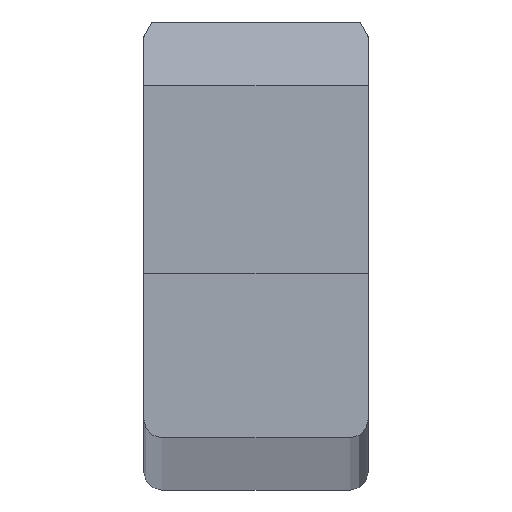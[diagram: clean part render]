
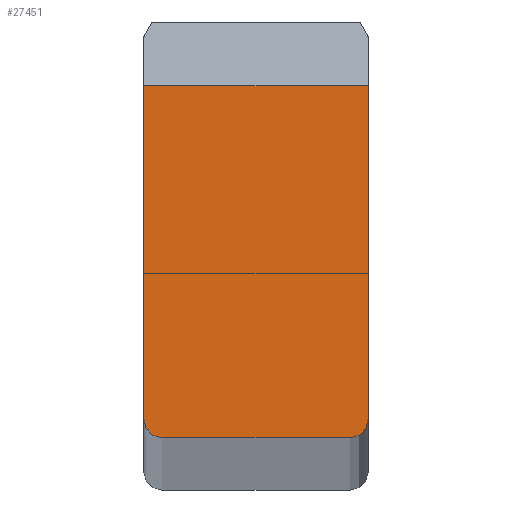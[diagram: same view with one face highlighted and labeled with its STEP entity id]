
A CAD part, top view. The second image highlights one B-rep face of the part: STEP entity #27451.
In plain terms, the highlighted planar face has unit normal (0, 0, 1).
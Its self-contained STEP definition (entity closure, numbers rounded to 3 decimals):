
#381 = CARTESIAN_POINT ( 'NONE',  ( 0., 0., 2000. ) ) ;
#3245 = PLANE ( 'NONE',  #54795 ) ;
#8101 = CIRCLE ( 'NONE', #16896, 1.2 ) ;
#8110 = DIRECTION ( 'NONE',  ( -1., 0., 0. ) ) ;
#9843 = FACE_OUTER_BOUND ( 'NONE', #52493, .T. ) ;
#9879 = LINE ( 'NONE', #54117, #34209 ) ;
#11180 = EDGE_CURVE ( 'NONE', #18953, #12030, #24541, .T. ) ;
#12030 = VERTEX_POINT ( 'NONE', #56476 ) ;
#12287 = VERTEX_POINT ( 'NONE', #25791 ) ;
#14030 = CARTESIAN_POINT ( 'NONE',  ( 15., 0., 2000. ) ) ;
#14288 = DIRECTION ( 'NONE',  ( -1., 0., 0. ) ) ;
#15863 = ORIENTED_EDGE ( 'NONE', *, *, #34990, .T. ) ;
#16036 = DIRECTION ( 'NONE',  ( 0., 0., 1. ) ) ;
#16896 = AXIS2_PLACEMENT_3D ( 'NONE', #45175, #16036, #50119 ) ;
#18953 = VERTEX_POINT ( 'NONE', #60568 ) ;
#23093 = ORIENTED_EDGE ( 'NONE', *, *, #61597, .T. ) ;
#23794 = DIRECTION ( 'NONE',  ( 0., 1., 0. ) ) ;
#24133 = ORIENTED_EDGE ( 'NONE', *, *, #11180, .T. ) ;
#24541 = LINE ( 'NONE', #14030, #48983 ) ;
#24588 = DIRECTION ( 'NONE',  ( 0., -1., 0. ) ) ;
#25159 = CARTESIAN_POINT ( 'NONE',  ( 13.8, 1.2, 2000. ) ) ;
#25791 = CARTESIAN_POINT ( 'NONE',  ( 13.8, 0., 2000. ) ) ;
#27262 = CARTESIAN_POINT ( 'NONE',  ( 0., 28., 2000. ) ) ;
#27451 = ADVANCED_FACE ( 'NONE', ( #9843 ), #3245, .F. ) ;
#29962 = CARTESIAN_POINT ( 'NONE',  ( 0., 0., 2000. ) ) ;
#30059 = DIRECTION ( 'NONE',  ( -1., 0., 0. ) ) ;
#30517 = ORIENTED_EDGE ( 'NONE', *, *, #56497, .T. ) ;
#33931 = CARTESIAN_POINT ( 'NONE',  ( 0., 23.55, 2000. ) ) ;
#34209 = VECTOR ( 'NONE', #14288, 1000. ) ;
#34822 = DIRECTION ( 'NONE',  ( 1., 0., 0. ) ) ;
#34990 = EDGE_CURVE ( 'NONE', #12287, #18953, #58316, .T. ) ;
#36345 = CARTESIAN_POINT ( 'NONE',  ( 1.2, 0., 2000. ) ) ;
#36797 = VECTOR ( 'NONE', #24588, 1000. ) ;
#37229 = DIRECTION ( 'NONE',  ( 0., 0., -1. ) ) ;
#38333 = LINE ( 'NONE', #381, #36797 ) ;
#40911 = CARTESIAN_POINT ( 'NONE',  ( 0., 1.2, 2000. ) ) ;
#44238 = VERTEX_POINT ( 'NONE', #40911 ) ;
#45175 = CARTESIAN_POINT ( 'NONE',  ( 1.2, 1.2, 2000. ) ) ;
#46465 = VERTEX_POINT ( 'NONE', #33931 ) ;
#47500 = EDGE_CURVE ( 'NONE', #46465, #44238, #38333, .T. ) ;
#48983 = VECTOR ( 'NONE', #23794, 1000. ) ;
#50119 = DIRECTION ( 'NONE',  ( -1., 0., 0. ) ) ;
#52493 = EDGE_LOOP ( 'NONE', ( #24133, #23093, #56613, #30517, #54956, #15863 ) ) ;
#53984 = VECTOR ( 'NONE', #34822, 1000. ) ;
#54117 = CARTESIAN_POINT ( 'NONE',  ( 0., 23.55, 2000. ) ) ;
#54795 = AXIS2_PLACEMENT_3D ( 'NONE', #27262, #37229, #8110 ) ;
#54956 = ORIENTED_EDGE ( 'NONE', *, *, #62154, .T. ) ;
#55505 = LINE ( 'NONE', #29962, #53984 ) ;
#56476 = CARTESIAN_POINT ( 'NONE',  ( 15., 23.55, 2000. ) ) ;
#56497 = EDGE_CURVE ( 'NONE', #44238, #59509, #8101, .T. ) ;
#56613 = ORIENTED_EDGE ( 'NONE', *, *, #47500, .T. ) ;
#57176 = AXIS2_PLACEMENT_3D ( 'NONE', #25159, #59232, #30059 ) ;
#58316 = CIRCLE ( 'NONE', #57176, 1.2 ) ;
#59232 = DIRECTION ( 'NONE',  ( 0., 0., 1. ) ) ;
#59509 = VERTEX_POINT ( 'NONE', #36345 ) ;
#60568 = CARTESIAN_POINT ( 'NONE',  ( 15., 1.2, 2000. ) ) ;
#61597 = EDGE_CURVE ( 'NONE', #12030, #46465, #9879, .T. ) ;
#62154 = EDGE_CURVE ( 'NONE', #59509, #12287, #55505, .T. ) ;
